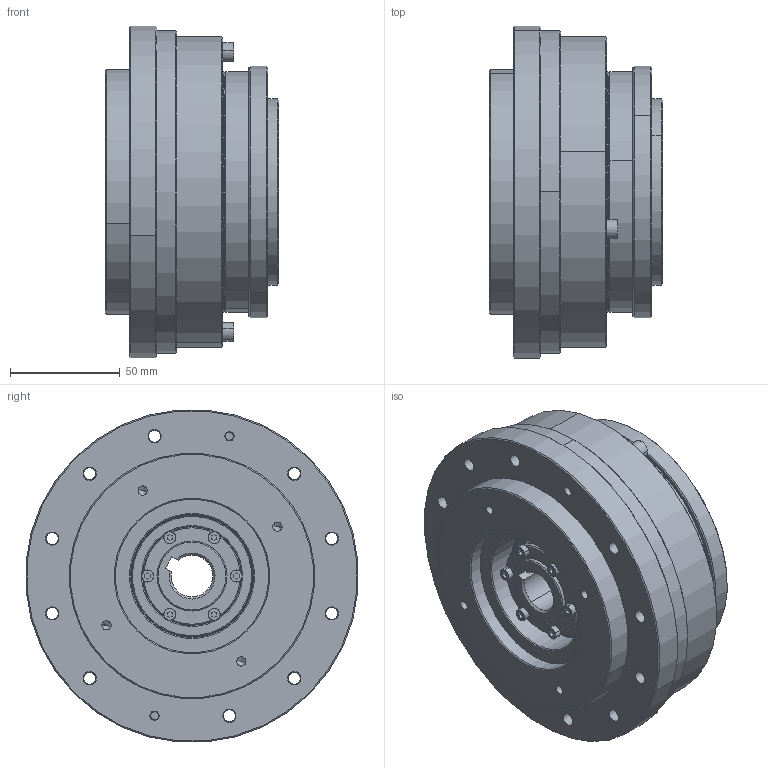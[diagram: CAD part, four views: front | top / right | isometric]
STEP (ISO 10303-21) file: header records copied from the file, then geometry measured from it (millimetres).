
FILE_DESCRIPTION (( 'STEP AP214' ), '1' );
FILE_NAME ('LHSG-32-XXX-RDP-19-40-70-90-M6.step', '2022-08-03T03:58:44', ( 'Sysceo.com' ), ( '' ), 'SwSTEP 2.0', 'SolidWorks 2020', '' );
FILE_SCHEMA (( 'AUTOMOTIVE_DESIGN' ));
Length unit declared in the file: millimetre
Products named in the file (1): LHSG-32-XXX-RDP-19-40-70-90-M6
Bounding box: 79 x 151.42 x 151.42 mm (x, y, z)
Volume: 767371.4 mm3; surface area: 355738.1 mm2
Topology: 94 solids, 94 shells, 1897 faces, 4466 edges, 2594 vertices
Faces by surface type: cylinder 637, plane 540, cone 390, sphere 192, torus 138
Entity records: 74184 total; most frequent: DIRECTION 9986, CARTESIAN_POINT 9114, ORIENTED_EDGE 8124, AXIS2_PLACEMENT_3D 4148, EDGE_CURVE 4062, VERTEX_POINT 2502, EDGE_LOOP 2314, CIRCLE 2250
